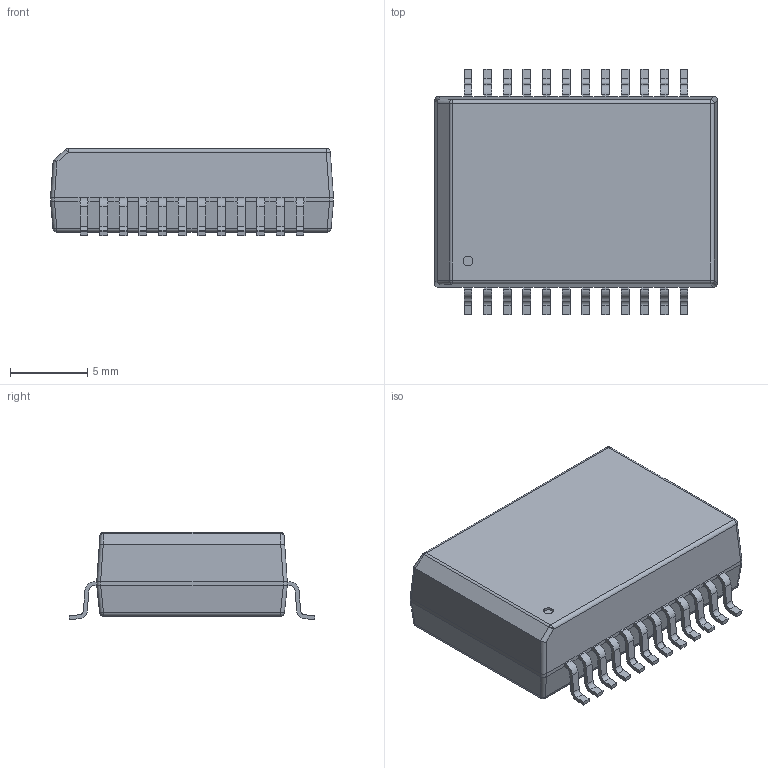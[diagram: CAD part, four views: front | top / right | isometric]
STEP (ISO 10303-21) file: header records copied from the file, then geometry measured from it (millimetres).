
FILE_DESCRIPTION (( 'STEP AP214' ), '1' );
FILE_NAME ('TX1193NL_3D.STEP', '2018-07-11T07:42:21', ( '' ), ( '' ), 'SwSTEP 2.0', 'SolidWorks 2015', '' );
FILE_SCHEMA (( 'AUTOMOTIVE_DESIGN' ));
Length unit declared in the file: millimetre
Products named in the file (1): TX1193NL_3D
Bounding box: 18.29 x 15.88 x 5.63 mm (x, y, z)
Volume: 1191.1 mm3; surface area: 861.2 mm2
Topology: 1 solids, 1 shells, 384 faces, 1023 edges, 642 vertices
Faces by surface type: plane 256, cylinder 120, sphere 8
Entity records: 16017 total; most frequent: CARTESIAN_POINT 2142, ORIENTED_EDGE 2046, DIRECTION 1985, EDGE_CURVE 1023, VECTOR 775, LINE 775, VERTEX_POINT 642, AXIS2_PLACEMENT_3D 605
